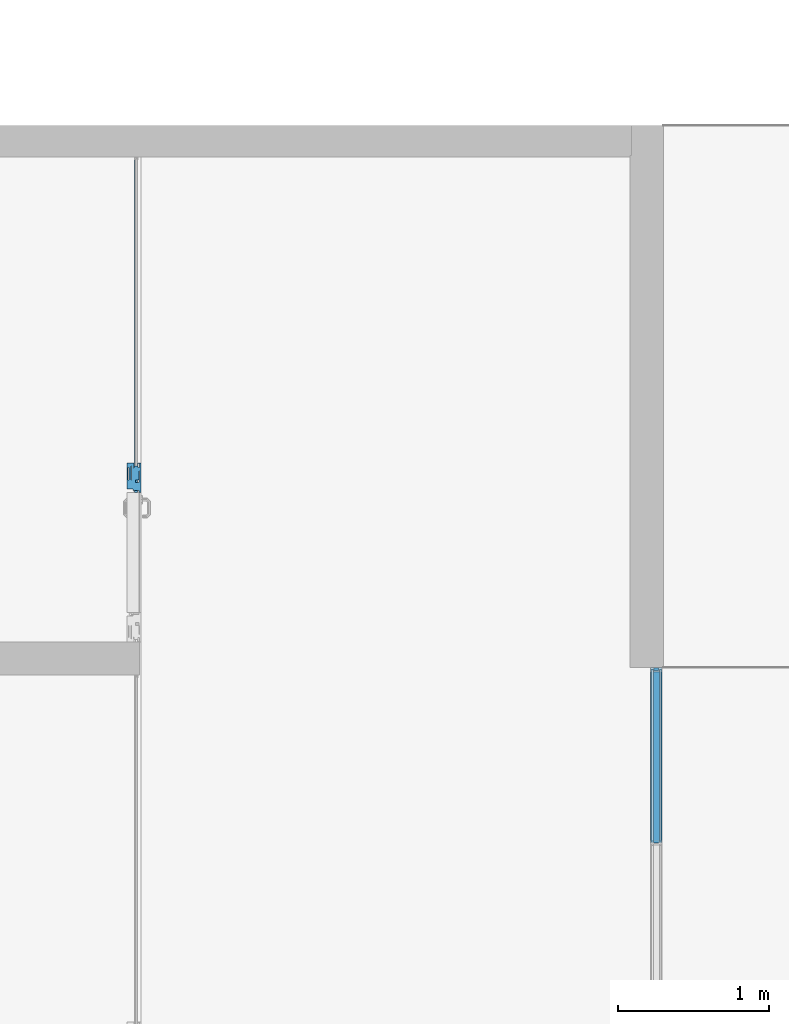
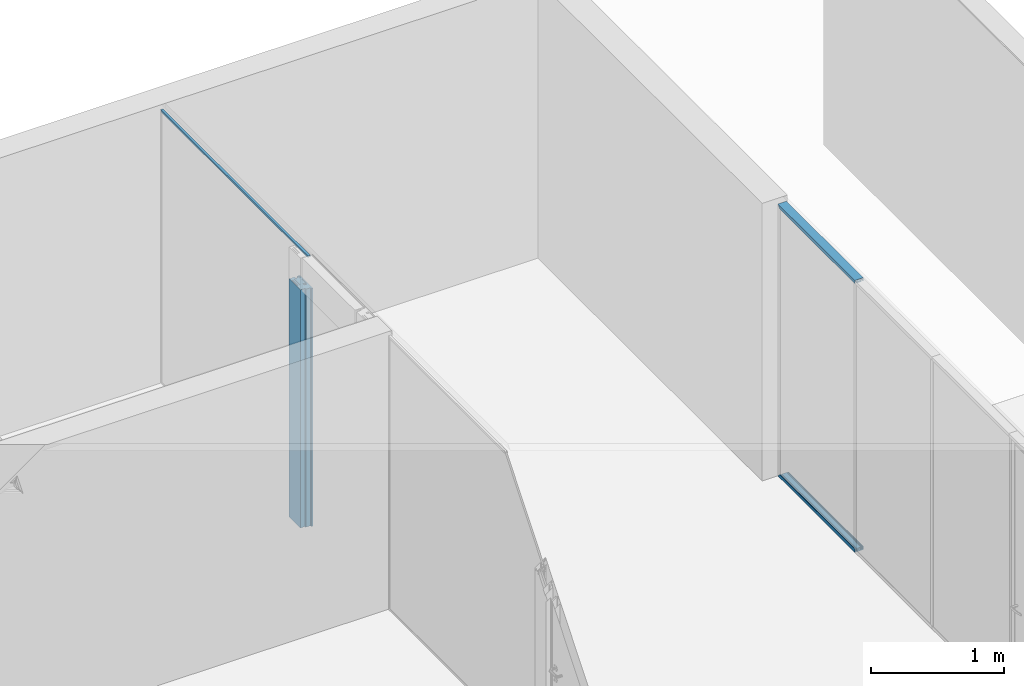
# One storey, part 25 of 79: 4 members, 2 elements without a shape of their own.
"""IFC2X3 building model written with IfcOpenShell, lengths in millimetres."""

from ifc_helpers import new_model, entity, si_unit, converted_unit, derived_unit, money_unit, direction, frame, origin_with_axes, place, context, subcontext, project, spatial, faceted_brep, material, material_list, type_object, element, aggregate, save


model = new_model("IFC2X3")

# Units and contexts
model_context = context("Model", 3, precision=0.01, world=origin_with_axes(), true_north=direction((0.0, 1.0)))
body_context = subcontext(model_context, "Body", "Model", "MODEL_VIEW")
ifc_project = project(units=[si_unit("LENGTHUNIT", "METRE", prefix="MILLI"), si_unit("AREAUNIT", "SQUARE_METRE"), si_unit("VOLUMEUNIT", "CUBIC_METRE"), converted_unit("PLANEANGLEUNIT", "DEGREE", entity("IfcPlaneAngleMeasure", 0.0174532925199), si_unit("PLANEANGLEUNIT", "RADIAN"), dimensions=[0, 0, 0, 0, 0, 0, 0]), si_unit("SOLIDANGLEUNIT", "STERADIAN"), money_unit("EUR"), converted_unit("TIMEUNIT", "Year", entity("IfcTimeMeasure", 31556926.0), si_unit("TIMEUNIT", "SECOND"), dimensions=[0, 0, 1, 0, 0, 0, 0]), si_unit("MASSUNIT", "GRAM", prefix="KILO"), si_unit("THERMODYNAMICTEMPERATUREUNIT", "DEGREE_CELSIUS"), si_unit("LUMINOUSINTENSITYUNIT", "LUMEN"), si_unit("ENERGYUNIT", "JOULE", prefix="MEGA"), derived_unit("THERMALCONDUCTANCEUNIT", [(si_unit("POWERUNIT", "WATT"), 1), (si_unit("LENGTHUNIT", "METRE"), -1), (si_unit("THERMODYNAMICTEMPERATUREUNIT", "KELVIN"), -1)]), derived_unit("SPECIFICHEATCAPACITYUNIT", [(si_unit("ENERGYUNIT", "JOULE"), 1), (si_unit("MASSUNIT", "GRAM", prefix="KILO"), -1), (si_unit("THERMODYNAMICTEMPERATUREUNIT", "KELVIN"), -1)]), derived_unit("MASSDENSITYUNIT", [(si_unit("MASSUNIT", "GRAM", prefix="KILO"), 1), (si_unit("VOLUMEUNIT", "CUBIC_METRE"), -1)])], contexts=[model_context])

# Site, building, storey
site_placement = place(None, origin_with_axes())
site = spatial("IfcSite", under=ifc_project, at=site_placement, Name="L.Koidula tn 11b", CompositionType="ELEMENT")
building_placement = place(site_placement, origin_with_axes())
building = spatial("IfcBuilding", under=site, at=building_placement, Name="Rakvere Riigigümnaasium", CompositionType="ELEMENT")
storey_placement = place(building_placement, frame((0.0, 0.0, 3720.0), z_axis=(0.0, 0.0, 1.0), x_axis=(1.0, 0.0, 0.0)))
storey = spatial("IfcBuildingStorey", under=building, at=storey_placement, Name="2.korrus +3,72", CompositionType="ELEMENT", Elevation=3720.0)

# Curtain wall, members
curtain_wall_type = type_object("IfcCurtainWallType", Name="Curtain Wall Type", PredefinedType="NOTDEFINED")
curtain_wall_1_placement = place(storey_placement, frame((44568.0000786, 20404.7190306, -3.55964617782e-05), z_axis=(0.0, 0.0, 1.0), x_axis=(1.0, 0.0, 0.0)))
curtain_wall_1 = element("IfcCurtainWall", 1, at=curtain_wall_1_placement, inside=storey, type_object=curtain_wall_type, Name="SKLF-17")
ifc_material_1 = material(Name="Klaasvill")
ifc_material_2 = material(Name="Teras RAL7012")
ifc_material_list_1 = material_list([ifc_material_1, ifc_material_2])
member_type_1 = type_object("IfcMemberType", Name="Boundary Frame 30 x 42", PredefinedType="MULLION")
member_1_placement = place(curtain_wall_1_placement, frame((0.0, 6358.5, 0.0), z_axis=(0.0, 1.0, 0.0), x_axis=(0.0, 0.0, 1.0)))
member_1 = element("IfcMember", 2, at=member_1_placement, type_object=member_type_1, material=ifc_material_list_1, Name="SKLF-73-raam", ObjectType="MULLION", context=body_context, shape_type="Brep", body=[
    faceted_brep([(7.49999990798, 15.000000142, 0.0), (13.8499999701, 15.000000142, 0.0), (13.8499999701, 15.000000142, 1143.18645523), (7.49999990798, 15.000000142, 1149.53645529), (7.49999990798, 29.0161444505, 0.0), (13.8499999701, 29.0161444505, 0.0), (13.8499999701, 29.0161444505, 1143.18645523), (7.49999990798, 29.0161444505, 1149.53645529)], [[[0, 1, 2, 3]], [[0, 4, 5, 1]], [[1, 5, 6, 2]], [[3, 2, 6, 7]], [[4, 0, 3, 7]], [[5, 4, 7, 6]]]),
    faceted_brep([(24.987414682, 29.0161444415, 0.0), (25.004489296, 27.0307503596, 0.0), (25.004489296, 27.0307503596, 1132.0319659), (24.987414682, 29.0161444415, 1132.04904051), (28.5126239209, 29.0161444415, 0.0), (28.7655837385, 28.0385325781, 0.0), (28.4955493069, 27.0307503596, 0.0), (27.75780152, 26.2930025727, 0.0), (26.7500193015, 26.0229681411, 0.0), (25.742237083, 26.2930025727, 0.0), (25.742237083, 26.2930025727, 1131.29421811), (26.7500193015, 26.0229681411, 1130.2864359), (27.75780152, 26.2930025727, 1129.27865368), (28.4955493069, 27.0307503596, 1128.54090589), (28.7655837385, 28.0385325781, 1128.27087146), (28.5126239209, 29.0161444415, 1128.52383128)], [[[0, 1, 2, 3]], [[0, 4, 5, 6, 7, 8, 9, 1]], [[1, 9, 10, 2]], [[3, 2, 10, 11, 12, 13, 14, 15]], [[4, 0, 3, 15]], [[5, 4, 15, 14]], [[6, 5, 14, 13]], [[7, 6, 13, 12]], [[8, 7, 12, 11]], [[9, 8, 11, 10]]]),
    faceted_brep([(7.49999990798, -24.9999997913, 0.0), (7.49999990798, -39.0161445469, 0.0), (7.49999990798, -39.0161445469, 1149.53645529), (7.49999990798, -24.9999997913, 1149.53645529), (13.8499999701, -24.9999997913, 0.0), (13.8499999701, -39.0161445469, 0.0), (13.8499999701, -39.0161445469, 1143.18645523), (13.8499999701, -24.9999997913, 1143.18645523)], [[[0, 1, 2, 3]], [[0, 4, 5, 1]], [[1, 5, 6, 2]], [[3, 2, 6, 7]], [[4, 0, 3, 7]], [[5, 4, 7, 6]]]),
    faceted_brep([(25.004489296, -37.0307503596, 0.0), (24.987414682, -39.0161444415, 0.0), (24.987414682, -39.0161444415, 1132.04904051), (25.004489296, -37.0307503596, 1132.0319659), (25.742237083, -36.2930025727, 0.0), (26.7500193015, -36.0229681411, 0.0), (27.75780152, -36.2930025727, 0.0), (28.4955493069, -37.0307503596, 0.0), (28.7655837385, -38.0385325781, 0.0), (28.5126239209, -39.0161444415, 0.0), (28.5126239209, -39.0161444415, 1128.52383128), (28.7655837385, -38.0385325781, 1128.27087146), (28.4955493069, -37.0307503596, 1128.54090589), (27.75780152, -36.2930025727, 1129.27865368), (26.7500193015, -36.0229681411, 1130.2864359), (25.742237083, -36.2930025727, 1131.29421811)], [[[0, 1, 2, 3]], [[0, 4, 5, 6, 7, 8, 9, 1]], [[1, 9, 10, 2]], [[3, 2, 10, 11, 12, 13, 14, 15]], [[4, 0, 3, 15]], [[5, 4, 15, 14]], [[6, 5, 14, 13]], [[7, 6, 13, 12]], [[8, 7, 12, 11]], [[9, 8, 11, 10]]]),
    faceted_brep([(0.0, -22.0000000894, 0.0), (29.5999996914, -22.0000000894, 0.0), (29.5999996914, -22.0000000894, 1127.43645551), (0.0, -22.0000000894, 1157.0364552), (0.0, 12.0000000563, 0.0), (29.5999996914, 12.0000000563, 0.0), (1.9999999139, 10.0000001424, 0.0), (1.9999999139, -20.0000001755, 0.0), (18.7999996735, -20.0000001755, 0.0), (18.7999996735, 10.0000001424, 0.0), (29.5999996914, 12.0000000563, 1127.43645551), (0.0, 12.0000000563, 1157.0364552), (1.9999999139, 10.0000001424, 1155.03645528), (18.7999996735, 10.0000001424, 1138.23645552), (18.7999996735, -20.0000001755, 1138.23645552), (1.9999999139, -20.0000001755, 1155.03645528)], [[[0, 1, 2, 3]], [[0, 4, 5, 1], [6, 7, 8, 9]], [[1, 5, 10, 2]], [[3, 2, 10, 11], [12, 13, 14, 15]], [[4, 0, 3, 11]], [[5, 4, 11, 10]], [[7, 6, 12, 15]], [[8, 7, 15, 14]], [[9, 8, 14, 13]], [[6, 9, 13, 12]]]),
    faceted_brep([(0.0, 12.0, 0.0), (29.5999996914, 12.0000000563, 0.0), (29.5999996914, 12.0000000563, 1127.43645551), (0.0, 12.0, 1157.0364552), (0.0, 32.0, 0.0), (30.0000193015, 32.0, 0.0), (30.0000193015, 29.0161444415, 0.0), (28.5126239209, 29.0161444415, 0.0), (24.987414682, 29.0161444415, 0.0), (13.8499999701, 29.0161444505, 0.0), (7.49999999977, 29.0161444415, 0.0), (7.49999999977, 15.0, 0.0), (13.8499999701, 15.000000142, 0.0), (30.0000193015, 15.0, 0.0), (30.0000193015, 12.0, 0.0), (30.0000193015, 12.0, 1127.0364359), (30.0000193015, 15.0, 1127.0364359), (13.8499999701, 15.000000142, 1143.18645523), (7.49999999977, 15.0, 1149.5364552), (7.49999999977, 29.0161444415, 1149.5364552), (13.8499999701, 29.0161444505, 1143.18645523), (24.987414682, 29.0161444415, 1132.04904051), (28.5126239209, 29.0161444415, 1128.52383128), (30.0000193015, 29.0161444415, 1127.0364359), (30.0000193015, 32.0, 1127.0364359), (0.0, 32.0, 1157.0364552)], [[[0, 1, 2, 3]], [[0, 4, 5, 6, 7, 8, 9, 10, 11, 12, 13, 14, 1]], [[1, 14, 15, 2]], [[3, 2, 15, 16, 17, 18, 19, 20, 21, 22, 23, 24, 25]], [[4, 0, 3, 25]], [[5, 4, 25, 24]], [[6, 5, 24, 23]], [[7, 6, 23, 22]], [[8, 7, 22, 21]], [[9, 8, 21, 20]], [[10, 9, 20, 19]], [[11, 10, 19, 18]], [[12, 11, 18, 17]], [[13, 12, 17, 16]], [[14, 13, 16, 15]]]),
    faceted_brep([(0.0, -22.0, 0.0), (0.0, -42.0, 0.0), (0.0, -42.0, 1157.0364552), (0.0, -22.0, 1157.0364552), (29.5999996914, -22.0000000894, 0.0), (30.0000193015, -22.0, 0.0), (30.0000193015, -25.0, 0.0), (13.8499999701, -24.9999997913, 0.0), (7.49999999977, -25.0, 0.0), (7.49999999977, -39.0161444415, 0.0), (13.8499999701, -39.0161445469, 0.0), (24.987414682, -39.0161444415, 0.0), (28.5126239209, -39.0161444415, 0.0), (30.0000193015, -39.0161444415, 0.0), (30.0000193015, -42.0, 0.0), (30.0000193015, -42.0, 1127.0364359), (30.0000193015, -39.0161444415, 1127.0364359), (28.5126239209, -39.0161444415, 1128.52383128), (24.987414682, -39.0161444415, 1132.04904051), (13.8499999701, -39.0161445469, 1143.18645523), (7.49999999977, -39.0161444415, 1149.5364552), (7.49999999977, -25.0, 1149.5364552), (13.8499999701, -24.9999997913, 1143.18645523), (30.0000193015, -25.0, 1127.0364359), (30.0000193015, -22.0, 1127.0364359), (29.5999996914, -22.0000000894, 1127.43645551)], [[[0, 1, 2, 3]], [[0, 4, 5, 6, 7, 8, 9, 10, 11, 12, 13, 14, 1]], [[1, 14, 15, 2]], [[3, 2, 15, 16, 17, 18, 19, 20, 21, 22, 23, 24, 25]], [[4, 0, 3, 25]], [[5, 4, 25, 24]], [[6, 5, 24, 23]], [[7, 6, 23, 22]], [[8, 7, 22, 21]], [[9, 8, 21, 20]], [[10, 9, 20, 19]], [[11, 10, 19, 18]], [[12, 11, 18, 17]], [[13, 12, 17, 16]], [[14, 13, 16, 15]]]),
])
member_2_placement = place(curtain_wall_1_placement, frame((0.0, 6358.5, 2493.0000356), z_axis=(0.0, 1.0, 0.0), x_axis=(0.0, 0.0, 1.0)))
member_2 = element("IfcMember", 3, at=member_2_placement, type_object=member_type_1, material=ifc_material_list_1, Name="SKLF-75-raam", ObjectType="MULLION", context=body_context, shape_type="Brep", body=[
    faceted_brep([(-7.49999990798, 15.000000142, 0.0), (-7.49999990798, 15.000000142, 1149.53645529), (-13.8499999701, 15.000000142, 1143.18645523), (-13.8499999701, 15.000000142, 0.0), (-7.49999990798, 29.0161444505, 0.0), (-7.49999990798, 29.0161444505, 1149.53645529), (-13.8499999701, 29.0161444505, 1143.18645523), (-13.8499999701, 29.0161444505, 0.0)], [[[0, 1, 2, 3]], [[4, 5, 1, 0]], [[1, 5, 6, 2]], [[3, 2, 6, 7]], [[0, 3, 7, 4]], [[7, 6, 5, 4]]]),
    faceted_brep([(-24.987414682, 29.0161444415, 0.0), (-24.987414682, 29.0161444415, 1132.04904051), (-25.004489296, 27.0307503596, 1132.0319659), (-25.004489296, 27.0307503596, 0.0), (-28.5126239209, 29.0161444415, 0.0), (-28.5126239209, 29.0161444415, 1128.52383128), (-28.7655837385, 28.0385325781, 1128.27087146), (-28.4955493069, 27.0307503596, 1128.54090589), (-27.75780152, 26.2930025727, 1129.27865368), (-26.7500193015, 26.0229681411, 1130.2864359), (-25.742237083, 26.2930025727, 1131.29421811), (-25.742237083, 26.2930025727, 0.0), (-26.7500193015, 26.0229681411, 0.0), (-27.75780152, 26.2930025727, 0.0), (-28.4955493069, 27.0307503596, 0.0), (-28.7655837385, 28.0385325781, 0.0)], [[[0, 1, 2, 3]], [[4, 5, 1, 0]], [[1, 5, 6, 7, 8, 9, 10, 2]], [[3, 2, 10, 11]], [[0, 3, 11, 12, 13, 14, 15, 4]], [[15, 6, 5, 4]], [[14, 7, 6, 15]], [[13, 8, 7, 14]], [[12, 9, 8, 13]], [[11, 10, 9, 12]]]),
    faceted_brep([(-7.49999990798, -24.9999997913, 0.0), (-7.49999990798, -24.9999997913, 1149.53645529), (-7.49999990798, -39.0161445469, 1149.53645529), (-7.49999990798, -39.0161445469, 0.0), (-13.8499999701, -24.9999997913, 0.0), (-13.8499999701, -24.9999997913, 1143.18645523), (-13.8499999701, -39.0161445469, 1143.18645523), (-13.8499999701, -39.0161445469, 0.0)], [[[0, 1, 2, 3]], [[4, 5, 1, 0]], [[1, 5, 6, 2]], [[3, 2, 6, 7]], [[0, 3, 7, 4]], [[7, 6, 5, 4]]]),
    faceted_brep([(-25.004489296, -37.0307503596, 0.0), (-25.004489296, -37.0307503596, 1132.0319659), (-24.987414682, -39.0161444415, 1132.04904051), (-24.987414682, -39.0161444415, 0.0), (-25.742237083, -36.2930025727, 0.0), (-25.742237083, -36.2930025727, 1131.29421811), (-26.7500193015, -36.0229681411, 1130.2864359), (-27.75780152, -36.2930025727, 1129.27865368), (-28.4955493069, -37.0307503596, 1128.54090589), (-28.7655837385, -38.0385325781, 1128.27087146), (-28.5126239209, -39.0161444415, 1128.52383128), (-28.5126239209, -39.0161444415, 0.0), (-28.7655837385, -38.0385325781, 0.0), (-28.4955493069, -37.0307503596, 0.0), (-27.75780152, -36.2930025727, 0.0), (-26.7500193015, -36.0229681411, 0.0)], [[[0, 1, 2, 3]], [[4, 5, 1, 0]], [[1, 5, 6, 7, 8, 9, 10, 2]], [[3, 2, 10, 11]], [[0, 3, 11, 12, 13, 14, 15, 4]], [[15, 6, 5, 4]], [[14, 7, 6, 15]], [[13, 8, 7, 14]], [[12, 9, 8, 13]], [[11, 10, 9, 12]]]),
    faceted_brep([(0.0, -22.0000000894, 0.0), (0.0, -22.0000000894, 1157.0364552), (-29.5999996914, -22.0000000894, 1127.43645551), (-29.5999996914, -22.0000000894, 0.0), (0.0, 12.0000000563, 0.0), (0.0, 12.0000000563, 1157.0364552), (-29.5999996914, 12.0000000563, 1127.43645551), (-1.9999999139, 10.0000001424, 1155.03645528), (-1.9999999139, -20.0000001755, 1155.03645528), (-18.7999996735, -20.0000001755, 1138.23645552), (-18.7999996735, 10.0000001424, 1138.23645552), (-29.5999996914, 12.0000000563, 0.0), (-1.9999999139, 10.0000001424, 0.0), (-18.7999996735, 10.0000001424, 0.0), (-18.7999996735, -20.0000001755, 0.0), (-1.9999999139, -20.0000001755, 0.0)], [[[0, 1, 2, 3]], [[4, 5, 1, 0]], [[1, 5, 6, 2], [7, 8, 9, 10]], [[3, 2, 6, 11]], [[0, 3, 11, 4], [12, 13, 14, 15]], [[11, 6, 5, 4]], [[15, 8, 7, 12]], [[14, 9, 8, 15]], [[13, 10, 9, 14]], [[12, 7, 10, 13]]]),
    faceted_brep([(0.0, 12.0, 0.0), (0.0, 12.0, 1157.0364552), (-29.5999996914, 12.0000000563, 1127.43645551), (-29.5999996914, 12.0000000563, 0.0), (0.0, 32.0, 0.0), (0.0, 32.0, 1157.0364552), (-30.0000193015, 32.0, 1127.0364359), (-30.0000193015, 29.0161444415, 1127.0364359), (-28.5126239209, 29.0161444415, 1128.52383128), (-24.987414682, 29.0161444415, 1132.04904051), (-13.8499999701, 29.0161444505, 1143.18645523), (-7.49999999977, 29.0161444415, 1149.5364552), (-7.49999999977, 15.0, 1149.5364552), (-13.8499999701, 15.000000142, 1143.18645523), (-30.0000193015, 15.0, 1127.0364359), (-30.0000193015, 12.0, 1127.0364359), (-30.0000193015, 12.0, 0.0), (-30.0000193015, 15.0, 0.0), (-13.8499999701, 15.000000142, 0.0), (-7.49999999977, 15.0, 0.0), (-7.49999999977, 29.0161444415, 0.0), (-13.8499999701, 29.0161444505, 0.0), (-24.987414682, 29.0161444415, 0.0), (-28.5126239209, 29.0161444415, 0.0), (-30.0000193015, 29.0161444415, 0.0), (-30.0000193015, 32.0, 0.0)], [[[0, 1, 2, 3]], [[4, 5, 1, 0]], [[1, 5, 6, 7, 8, 9, 10, 11, 12, 13, 14, 15, 2]], [[3, 2, 15, 16]], [[0, 3, 16, 17, 18, 19, 20, 21, 22, 23, 24, 25, 4]], [[25, 6, 5, 4]], [[24, 7, 6, 25]], [[23, 8, 7, 24]], [[22, 9, 8, 23]], [[21, 10, 9, 22]], [[20, 11, 10, 21]], [[19, 12, 11, 20]], [[18, 13, 12, 19]], [[17, 14, 13, 18]], [[16, 15, 14, 17]]]),
    faceted_brep([(0.0, -22.0, 0.0), (0.0, -22.0, 1157.0364552), (0.0, -42.0, 1157.0364552), (0.0, -42.0, 0.0), (-29.5999996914, -22.0000000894, 0.0), (-29.5999996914, -22.0000000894, 1127.43645551), (-30.0000193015, -22.0, 1127.0364359), (-30.0000193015, -25.0, 1127.0364359), (-13.8499999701, -24.9999997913, 1143.18645523), (-7.49999999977, -25.0, 1149.5364552), (-7.49999999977, -39.0161444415, 1149.5364552), (-13.8499999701, -39.0161445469, 1143.18645523), (-24.987414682, -39.0161444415, 1132.04904051), (-28.5126239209, -39.0161444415, 1128.52383128), (-30.0000193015, -39.0161444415, 1127.0364359), (-30.0000193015, -42.0, 1127.0364359), (-30.0000193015, -42.0, 0.0), (-30.0000193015, -39.0161444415, 0.0), (-28.5126239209, -39.0161444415, 0.0), (-24.987414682, -39.0161444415, 0.0), (-13.8499999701, -39.0161445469, 0.0), (-7.49999999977, -39.0161444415, 0.0), (-7.49999999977, -25.0, 0.0), (-13.8499999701, -24.9999997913, 0.0), (-30.0000193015, -25.0, 0.0), (-30.0000193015, -22.0, 0.0)], [[[0, 1, 2, 3]], [[4, 5, 1, 0]], [[1, 5, 6, 7, 8, 9, 10, 11, 12, 13, 14, 15, 2]], [[3, 2, 15, 16]], [[0, 3, 16, 17, 18, 19, 20, 21, 22, 23, 24, 25, 4]], [[25, 6, 5, 4]], [[24, 7, 6, 25]], [[23, 8, 7, 24]], [[22, 9, 8, 23]], [[21, 10, 9, 22]], [[20, 11, 10, 21]], [[19, 12, 11, 20]], [[18, 13, 12, 19]], [[17, 14, 13, 18]], [[16, 15, 14, 17]]]),
])
aggregate(curtain_wall_1, [member_1, member_2])

curtain_wall_2_placement = place(storey_placement, frame((41130.915445, 28609.9592257, 0.0), z_axis=(0.0, 0.0, 1.0), x_axis=(1.0, 0.0, 0.0)))
curtain_wall_2 = element("IfcCurtainWall", 4, at=curtain_wall_2_placement, inside=storey, type_object=curtain_wall_type, Name="SKLF-16")
ifc_material_3 = material(Name="Alumiiniumprofiil")
ifc_material_list_2 = material_list([ifc_material_1, ifc_material_3])
member_type_2 = type_object("IfcMemberType", Name="Boundary Frame 17 x 1", PredefinedType="MULLION")
member_3_placement = place(curtain_wall_2_placement, frame((0.021911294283, 519.999999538, 2508.0), z_axis=(4.21371043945e-05, 0.999999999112, 0.0), x_axis=(0.0, 0.0, 1.0)))
member_3 = element("IfcMember", 5, at=member_3_placement, type_object=member_type_2, material=ifc_material_list_2, Name="PV-SKLF-43-raam", ObjectType="MULLION", context=body_context, shape_type="Brep", body=[
    faceted_brep([(-2.00001937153, 5.00000000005, -54.9999995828), (-8.35001937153, 5.00000000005, -54.9999995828), (-8.35001937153, 4.99999999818, 2152.14747678), (-2.00001937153, 4.99999999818, 2158.49747678), (-2.00001937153, -9.01614452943, -54.9999995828), (-8.35001937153, -9.01614452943, -54.9999995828), (-8.35001937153, -9.01614453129, 2152.14747678), (-2.00001937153, -9.0161445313, 2158.49747678)], [[[0, 1, 2, 3]], [[0, 4, 5, 1]], [[1, 5, 6, 2]], [[3, 2, 6, 7]], [[4, 0, 3, 7]], [[5, 4, 7, 6]]]),
    faceted_brep([(-11.987414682, -9.01614444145, -54.9999995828), (-12.004489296, -7.03075035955, -54.9999995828), (-12.004489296, -7.0307503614, 2148.49300686), (-11.987414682, -9.0161444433, 2148.51008147), (-15.5126239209, -9.01614444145, -54.9999995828), (-15.7655837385, -8.03853257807, -54.9999995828), (-15.4955493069, -7.03075035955, -54.9999995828), (-14.75780152, -6.29300257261, -54.9999995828), (-13.7500193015, -6.02296814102, -54.9999995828), (-12.742237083, -6.29300257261, -54.9999995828), (-12.742237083, -6.29300257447, 2147.75525907), (-13.7500193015, -6.02296814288, 2146.74747685), (-14.75780152, -6.29300257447, 2145.73969463), (-15.4955493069, -7.0307503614, 2145.00194685), (-15.7655837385, -8.03853257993, 2144.73191242), (-15.5126239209, -9.0161444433, 2144.98487223)], [[[0, 1, 2, 3]], [[0, 4, 5, 6, 7, 8, 9, 1]], [[1, 9, 10, 2]], [[3, 2, 10, 11, 12, 13, 14, 15]], [[4, 0, 3, 15]], [[5, 4, 15, 14]], [[6, 5, 14, 13]], [[7, 6, 13, 12]], [[8, 7, 12, 11]], [[9, 8, 11, 10]]]),
    faceted_brep([(0.0, 8.00000000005, -54.9999995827), (-17.0000193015, 8.00000000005, -54.9999995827), (-17.0000193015, 7.99999999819, 2143.49747685), (0.0, 7.99999999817, 2160.49749615), (0.0, -12.0, -54.9999995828), (-17.0000193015, -12.0, -54.9999995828), (-17.0000193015, -9.01614444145, -54.9999995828), (-15.5126239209, -9.01614444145, -54.9999995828), (-11.987414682, -9.01614444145, -54.9999995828), (-8.35001937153, -9.01614452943, -54.9999995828), (-2.00001930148, -9.01614444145, -54.9999995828), (-2.00001930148, 5.00000000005, -54.9999995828), (-8.35001937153, 5.00000000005, -54.9999995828), (-17.0000193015, 5.00000000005, -54.9999995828), (-17.0000193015, 4.99999999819, 2143.49747685), (-8.35001937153, 4.99999999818, 2152.14747678), (-2.00001930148, 4.99999999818, 2158.49747685), (-2.00001930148, -9.01614444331, 2158.49747685), (-8.35001937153, -9.01614453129, 2152.14747678), (-11.987414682, -9.0161444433, 2148.51008147), (-15.5126239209, -9.0161444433, 2144.98487223), (-17.0000193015, -9.0161444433, 2143.49747685), (-17.0000193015, -12.0000000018, 2143.49747685), (0.0, -12.0000000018, 2160.49749615)], [[[0, 1, 2, 3]], [[0, 4, 5, 6, 7, 8, 9, 10, 11, 12, 13, 1]], [[1, 13, 14, 2]], [[3, 2, 14, 15, 16, 17, 18, 19, 20, 21, 22, 23]], [[4, 0, 3, 23]], [[5, 4, 23, 22]], [[6, 5, 22, 21]], [[7, 6, 21, 20]], [[8, 7, 20, 19]], [[9, 8, 19, 18]], [[10, 9, 18, 17]], [[11, 10, 17, 16]], [[12, 11, 16, 15]], [[13, 12, 15, 14]]]),
])
ifc_material_4 = material(Name="Puit")
ifc_material_5 = material(Name="MDF")
ifc_material_list_3 = material_list([ifc_material_4, ifc_material_5, ifc_material_1, ifc_material_3])
member_type_3 = type_object("IfcMemberType", Name="Siseklaasfassaad - Ukseraam-2 195 x 29", PredefinedType="MULLION")
member_4_placement = place(curtain_wall_2_placement, frame((0.021911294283, 519.999999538, 0.0), z_axis=(0.0, 0.0, 1.0), x_axis=(-4.21371043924e-05, -0.999999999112, 0.0)))
member_4 = element("IfcMember", 6, at=member_4_placement, type_object=member_type_3, material=ifc_material_list_3, Name="Frame-Siseklaasf-011", ObjectType="MULLION", context=body_context, shape_type="Brep", body=[
    faceted_brep([(0.0, 15.2764635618, 17.0000193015), (0.0, -50.8404412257, 17.0000193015), (0.0, -50.8404412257, 2200.0), (0.0, 15.2764635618, 2200.0), (41.8573788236, 15.2764635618, 17.0000193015), (41.9954210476, 15.2764635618, 17.0000193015), (41.9954210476, 8.15955847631, 17.0000193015), (41.9954210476, -23.8404411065, 17.0000193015), (30.0000008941, -23.8404411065, 17.0000193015), (29.9999995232, -50.8404412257, 17.0000193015), (29.9999995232, -50.8404412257, 2200.0), (30.0000008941, -23.8404411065, 2200.0), (41.9954210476, -23.8404411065, 2200.0), (41.9954210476, 8.15955847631, 2200.0), (41.9954210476, 15.2764635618, 2200.0), (41.8573788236, 15.2764635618, 2200.0)], [[[0, 1, 2, 3]], [[1, 0, 4, 5, 6, 7, 8, 9]], [[1, 9, 10, 2]], [[2, 10, 11, 12, 13, 14, 15, 3]], [[4, 0, 3, 15]], [[5, 4, 15, 14]], [[6, 5, 14, 13]], [[7, 6, 13, 12]], [[8, 7, 12, 11]], [[9, 8, 11, 10]]]),
    faceted_brep([(-137.859682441, 29.159535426, 17.0000193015), (-137.859682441, 21.159534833, 17.0000193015), (-137.859682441, 21.159534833, 2200.0), (-137.859682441, 29.159535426, 2200.0), (52.9999994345, 29.1595584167, 17.0000193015), (52.9999994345, 21.1595377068, 17.0000193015), (-30.0029064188, 21.1595377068, 17.0000193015), (-30.0029064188, 21.1595377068, 2200.0), (52.9999994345, 21.1595377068, 2200.0), (52.9999994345, 29.1595584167, 2200.0)], [[[0, 1, 2, 3]], [[1, 0, 4, 5, 6]], [[1, 6, 7, 2]], [[2, 7, 8, 9, 3]], [[4, 0, 3, 9]], [[5, 4, 9, 8]], [[6, 5, 8, 7]]]),
    faceted_brep([(-121.188402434, -54.8405744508, 17.0000193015), (-137.859682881, -54.8404422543, 17.0000193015), (-137.859682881, -54.8404422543, 2200.0), (-121.188402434, -54.8405744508, 2200.0), (-109.859683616, -54.8405744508, 17.0000193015), (-30.0029066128, -54.8404422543, 17.0000193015), (1.12772013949e-06, -54.8404422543, 17.0000193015), (28.0000003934, -54.8404422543, 17.0000193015), (28.0000003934, -62.8404428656, 17.0000193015), (-137.859682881, -62.8404399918, 17.0000193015), (-137.859682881, -62.8404399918, 2200.0), (28.0000003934, -62.8404428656, 2200.0), (28.0000003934, -54.8404422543, 2200.0), (1.12772013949e-06, -54.8404422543, 2200.0), (-30.0029066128, -54.8404422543, 2200.0), (-109.859683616, -54.8405744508, 2200.0)], [[[0, 1, 2, 3]], [[1, 0, 4, 5, 6, 7, 8, 9]], [[1, 9, 10, 2]], [[2, 10, 11, 12, 13, 14, 15, 3]], [[4, 0, 3, 15]], [[5, 4, 15, 14]], [[6, 5, 14, 13]], [[7, 6, 13, 12]], [[8, 7, 12, 11]], [[9, 8, 11, 10]]]),
    faceted_brep([(-120.859682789, -20.34054937, 17.0000193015), (-120.859682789, -33.3330734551, 17.0000193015), (-120.859682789, -33.3330734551, 2200.0), (-120.859682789, -20.34054937, 2200.0), (-107.859682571, -20.338601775, 17.0000193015), (-30.0029050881, -20.3386011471, 17.0000193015), (-30.0029064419, -33.3311238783, 17.0000193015), (-30.0029064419, -33.3311238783, 2200.0), (-30.0029050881, -20.3386011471, 2200.0), (-107.859682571, -20.338601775, 2200.0)], [[[0, 1, 2, 3]], [[1, 0, 4, 5, 6]], [[1, 6, 7, 2]], [[2, 7, 8, 9, 3]], [[4, 0, 3, 9]], [[5, 4, 9, 8]], [[6, 5, 8, 7]]]),
    faceted_brep([(-120.859682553, -36.8405491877, 17.0000193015), (-120.859682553, -49.8405506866, 17.0000193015), (-120.859682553, -49.8405506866, 2200.0), (-120.859682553, -36.8405491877, 2200.0), (-30.0046927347, -36.8404411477, 17.0000193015), (-30.0046927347, -49.8404410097, 17.0000193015), (-109.8596833, -49.8405506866, 17.0000193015), (-109.8596833, -49.8405506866, 2200.0), (-30.0046927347, -49.8404410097, 2200.0), (-30.0046927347, -36.8404411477, 2200.0)], [[[0, 1, 2, 3]], [[1, 0, 4, 5, 6]], [[1, 6, 7, 2]], [[2, 7, 8, 9, 3]], [[4, 0, 3, 9]], [[5, 4, 9, 8]], [[6, 5, 8, 7]]]),
    faceted_brep([(-107.859682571, 5.15955767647, 17.0000193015), (-107.859682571, -20.338601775, 17.0000193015), (-107.859682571, -20.338601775, 2200.0), (-107.859682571, 5.15955767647, 2200.0), (-107.859682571, 11.1594268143, 17.0000193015), (-107.859682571, 17.1595604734, 17.0000193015), (-89.8596820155, 17.1595604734, 17.0000193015), (-30.0029050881, 17.1595580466, 17.0000193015), (-30.0029050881, 15.1595587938, 17.0000193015), (-30.0029050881, -5.24044086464, 17.0000193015), (-30.0029050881, -20.338601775, 17.0000193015), (-30.0029050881, -20.338601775, 2200.0), (-30.0029050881, -5.24044086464, 2200.0), (-30.0029050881, 15.1595587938, 2200.0), (-30.0029050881, 17.1595580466, 2200.0), (-89.8596820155, 17.1595604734, 2200.0), (-107.859682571, 17.1595604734, 2200.0), (-107.859682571, 11.1594268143, 2200.0)], [[[0, 1, 2, 3]], [[1, 0, 4, 5, 6, 7, 8, 9, 10]], [[1, 10, 11, 2]], [[2, 11, 12, 13, 14, 15, 16, 17, 3]], [[4, 0, 3, 17]], [[5, 4, 17, 16]], [[6, 5, 16, 15]], [[7, 6, 15, 14]], [[8, 7, 14, 13]], [[9, 8, 13, 12]], [[10, 9, 12, 11]]]),
    faceted_brep([(-30.0046927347, -49.8404410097, 17.0000193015), (-30.0029058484, -54.8404413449, 17.0000193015), (-30.0029058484, -54.8404413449, 2200.0), (-30.0046927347, -49.8404410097, 2200.0), (-30.0046927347, -36.8404411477, 17.0000193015), (-30.0029064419, -33.3311238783, 17.0000193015), (-30.0029050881, -20.3386011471, 17.0000193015), (-30.0029058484, -5.24044206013, 17.0000193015), (-12.999999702, -5.24044206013, 17.0000193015), (-12.999999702, 15.1595579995, 17.0000193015), (-30.0029058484, 15.1595579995, 17.0000193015), (-30.0029050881, 17.1595580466, 17.0000193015), (-30.0029058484, 21.1595363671, 17.0000193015), (53.0000007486, 21.1595363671, 17.0000193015), (53.0000007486, 29.1595584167, 17.0000193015), (54.9999995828, 29.1595584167, 17.0000193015), (54.9999995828, 20.2336043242, 17.0000193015), (54.9999995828, 17.1595580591, 17.0000193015), (41.8573788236, 17.1595580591, 17.0000193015), (41.8573788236, 15.2764635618, 17.0000193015), (0.0, 15.2764635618, 17.0000193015), (0.0, -50.8404412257, 17.0000193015), (29.9999995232, -50.8404412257, 17.0000193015), (29.9999995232, -54.8404413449, 17.0000193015), (29.9999995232, -62.8404415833, 17.0000193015), (27.9999994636, -62.8404415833, 17.0000193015), (27.9999994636, -54.8404413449, 17.0000193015), (0.0, -54.8404413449, 17.0000193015), (0.0, -54.8404413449, 2200.0), (27.9999994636, -54.8404413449, 2200.0), (27.9999994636, -62.8404415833, 2200.0), (29.9999995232, -62.8404415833, 2200.0), (29.9999995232, -54.8404413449, 2200.0), (29.9999995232, -50.8404412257, 2200.0), (0.0, -50.8404412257, 2200.0), (0.0, 15.2764635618, 2200.0), (41.8573788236, 15.2764635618, 2200.0), (41.8573788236, 17.1595580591, 2200.0), (54.9999995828, 17.1595580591, 2200.0), (54.9999995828, 20.2336043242, 2200.0), (54.9999995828, 29.1595584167, 2200.0), (53.0000007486, 29.1595584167, 2200.0), (53.0000007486, 21.1595363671, 2200.0), (-30.0029058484, 21.1595363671, 2200.0), (-30.0029050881, 17.1595580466, 2200.0), (-30.0029058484, 15.1595579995, 2200.0), (-12.999999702, 15.1595579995, 2200.0), (-12.999999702, -5.24044206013, 2200.0), (-30.0029058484, -5.24044206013, 2200.0), (-30.0029050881, -20.3386011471, 2200.0), (-30.0029064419, -33.3311238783, 2200.0), (-30.0046927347, -36.8404411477, 2200.0)], [[[0, 1, 2, 3]], [[1, 0, 4, 5, 6, 7, 8, 9, 10, 11, 12, 13, 14, 15, 16, 17, 18, 19, 20, 21, 22, 23, 24, 25, 26, 27]], [[1, 27, 28, 2]], [[2, 28, 29, 30, 31, 32, 33, 34, 35, 36, 37, 38, 39, 40, 41, 42, 43, 44, 45, 46, 47, 48, 49, 50, 51, 3]], [[4, 0, 3, 51]], [[5, 4, 51, 50]], [[6, 5, 50, 49]], [[7, 6, 49, 48]], [[8, 7, 48, 47]], [[9, 8, 47, 46]], [[10, 9, 46, 45]], [[11, 10, 45, 44]], [[12, 11, 44, 43]], [[13, 12, 43, 42]], [[14, 13, 42, 41]], [[15, 14, 41, 40]], [[16, 15, 40, 39]], [[17, 16, 39, 38]], [[18, 17, 38, 37]], [[19, 18, 37, 36]], [[20, 19, 36, 35]], [[21, 20, 35, 34]], [[22, 21, 34, 33]], [[23, 22, 33, 32]], [[24, 23, 32, 31]], [[25, 24, 31, 30]], [[26, 25, 30, 29]], [[27, 26, 29, 28]]]),
    faceted_brep([(-139.859682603, -15.2404414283, 17.0000193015), (-139.859682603, -62.8404415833, 17.0000193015), (-139.859682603, -62.8404415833, 2200.0), (-139.859682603, -15.2404414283, 2200.0), (-122.859682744, -15.2404414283, 17.0000193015), (-122.859682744, 5.1595578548, 17.0000193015), (-137.859681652, 5.1595578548, 17.0000193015), (-139.859682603, 5.1595578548, 17.0000193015), (-139.859682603, 29.1595363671, 17.0000193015), (-137.859681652, 29.1595363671, 17.0000193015), (-137.859682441, 21.159534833, 17.0000193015), (-137.859681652, 11.1594263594, 17.0000193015), (-109.859682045, 11.1594263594, 17.0000193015), (-109.859682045, 17.1595594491, 17.0000193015), (-109.859682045, 19.1595576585, 17.0000193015), (-107.859682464, 19.1595576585, 17.0000193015), (-89.8596821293, 19.1595576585, 17.0000193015), (-89.8596821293, 17.1595594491, 17.0000193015), (-107.859682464, 17.1595594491, 17.0000193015), (-107.859682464, 11.1594263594, 17.0000193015), (-107.859682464, 5.1595578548, 17.0000193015), (-107.859682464, -17.2404410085, 17.0000193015), (-120.859681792, -17.2404410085, 17.0000193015), (-120.859682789, -20.34054937, 17.0000193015), (-120.859682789, -33.3330734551, 17.0000193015), (-120.859682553, -36.8405491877, 17.0000193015), (-120.859681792, -49.8405505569, 17.0000193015), (-109.859683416, -49.8405505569, 17.0000193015), (-109.859683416, -53.8404414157, 17.0000193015), (-109.859683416, -54.8405734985, 17.0000193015), (-121.188400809, -54.8405734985, 17.0000193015), (-137.859681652, -54.8405734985, 17.0000193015), (-137.859683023, -62.8404415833, 17.0000193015), (-137.859683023, -62.8404415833, 2200.0), (-137.859681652, -54.8405734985, 2200.0), (-121.188400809, -54.8405734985, 2200.0), (-109.859683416, -54.8405734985, 2200.0), (-109.859683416, -53.8404414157, 2200.0), (-109.859683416, -49.8405505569, 2200.0), (-120.859681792, -49.8405505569, 2200.0), (-120.859682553, -36.8405491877, 2200.0), (-120.859682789, -33.3330734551, 2200.0), (-120.859682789, -20.34054937, 2200.0), (-120.859681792, -17.2404410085, 2200.0), (-107.859682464, -17.2404410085, 2200.0), (-107.859682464, 5.1595578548, 2200.0), (-107.859682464, 11.1594263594, 2200.0), (-107.859682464, 17.1595594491, 2200.0), (-89.8596821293, 17.1595594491, 2200.0), (-89.8596821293, 19.1595576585, 2200.0), (-107.859682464, 19.1595576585, 2200.0), (-109.859682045, 19.1595576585, 2200.0), (-109.859682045, 17.1595594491, 2200.0), (-109.859682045, 11.1594263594, 2200.0), (-137.859681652, 11.1594263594, 2200.0), (-137.859682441, 21.159534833, 2200.0), (-137.859681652, 29.1595363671, 2200.0), (-139.859682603, 29.1595363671, 2200.0), (-139.859682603, 5.1595578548, 2200.0), (-137.859681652, 5.1595578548, 2200.0), (-122.859682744, 5.1595578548, 2200.0), (-122.859682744, -15.2404414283, 2200.0)], [[[0, 1, 2, 3]], [[1, 0, 4, 5, 6, 7, 8, 9, 10, 11, 12, 13, 14, 15, 16, 17, 18, 19, 20, 21, 22, 23, 24, 25, 26, 27, 28, 29, 30, 31, 32]], [[1, 32, 33, 2]], [[2, 33, 34, 35, 36, 37, 38, 39, 40, 41, 42, 43, 44, 45, 46, 47, 48, 49, 50, 51, 52, 53, 54, 55, 56, 57, 58, 59, 60, 61, 3]], [[4, 0, 3, 61]], [[5, 4, 61, 60]], [[6, 5, 60, 59]], [[7, 6, 59, 58]], [[8, 7, 58, 57]], [[9, 8, 57, 56]], [[10, 9, 56, 55]], [[11, 10, 55, 54]], [[12, 11, 54, 53]], [[13, 12, 53, 52]], [[14, 13, 52, 51]], [[15, 14, 51, 50]], [[16, 15, 50, 49]], [[17, 16, 49, 48]], [[18, 17, 48, 47]], [[19, 18, 47, 46]], [[20, 19, 46, 45]], [[21, 20, 45, 44]], [[22, 21, 44, 43]], [[23, 22, 43, 42]], [[24, 23, 42, 41]], [[25, 24, 41, 40]], [[26, 25, 40, 39]], [[27, 26, 39, 38]], [[28, 27, 38, 37]], [[29, 28, 37, 36]], [[30, 29, 36, 35]], [[31, 30, 35, 34]], [[32, 31, 34, 33]]]),
])
aggregate(curtain_wall_2, [member_4, member_3])

save(model, "model.ifc")
